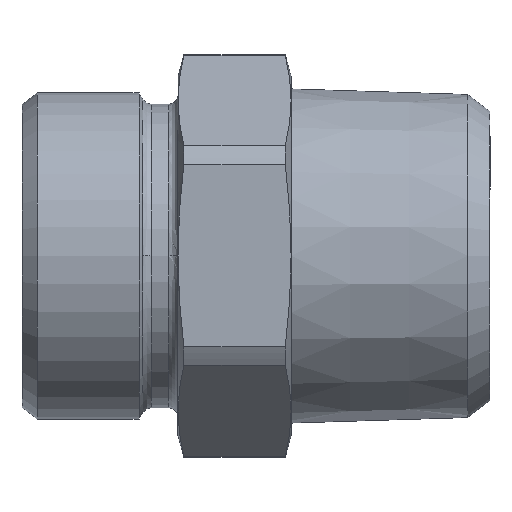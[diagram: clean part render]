
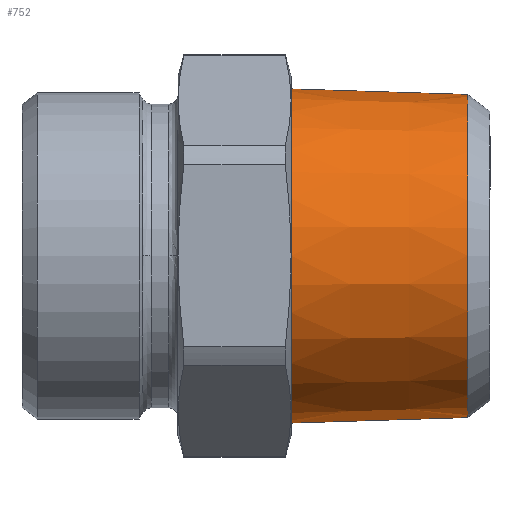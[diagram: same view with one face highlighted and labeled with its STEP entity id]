
A CAD part, top view. The second image highlights one B-rep face of the part: STEP entity #752.
In plain terms, the highlighted conical face has half-angle 1.79 degrees and reference radius 21.063 mm.
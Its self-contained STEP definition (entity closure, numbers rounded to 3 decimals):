
#711=CARTESIAN_POINT('',(0.,0.,-18.567));
#712=DIRECTION('',(0.,0.,1.0));
#713=DIRECTION('',(0.0,-1.0,0.0));
#714=AXIS2_PLACEMENT_3D('',#711,#712,#713);
#715=CONICAL_SURFACE('',#714,21.063,1.79);
#716=CARTESIAN_POINT('',(0.,-20.71,-29.884));
#717=VERTEX_POINT('',#716);
#718=CARTESIAN_POINT('',(0.,-21.417,-7.25));
#719=VERTEX_POINT('',#718);
#720=CARTESIAN_POINT('',(0.,-20.71,-29.884));
#721=DIRECTION('',(0.,-0.031,1.));
#722=VECTOR('',#721,22.645);
#723=LINE('',#720,#722);
#724=EDGE_CURVE('',#717,#719,#723,.T.);
#725=ORIENTED_EDGE('',*,*,#724,.F.);
#726=CARTESIAN_POINT('',(0.,20.71,-29.884));
#727=VERTEX_POINT('',#726);
#728=CARTESIAN_POINT('',(0.,0.,-29.884));
#729=DIRECTION('',(0.0,0.0,1.0));
#730=DIRECTION('',(0.0,-1.0,0.0));
#731=AXIS2_PLACEMENT_3D('',#728,#729,#730);
#732=CIRCLE('',#731,20.71);
#733=EDGE_CURVE('',#717,#727,#732,.T.);
#734=ORIENTED_EDGE('',*,*,#733,.T.);
#735=CARTESIAN_POINT('',(0.,21.417,-7.25));
#736=VERTEX_POINT('',#735);
#737=CARTESIAN_POINT('',(0.,21.417,-7.25));
#738=DIRECTION('',(0.,-0.031,-1.));
#739=VECTOR('',#738,22.645);
#740=LINE('',#737,#739);
#741=EDGE_CURVE('',#736,#727,#740,.T.);
#742=ORIENTED_EDGE('',*,*,#741,.F.);
#743=CARTESIAN_POINT('',(0.,0.,-7.25));
#744=DIRECTION('',(0.0,0.0,1.0));
#745=DIRECTION('',(0.0,-1.0,0.0));
#746=AXIS2_PLACEMENT_3D('',#743,#744,#745);
#747=CIRCLE('',#746,21.417);
#748=EDGE_CURVE('',#719,#736,#747,.T.);
#749=ORIENTED_EDGE('',*,*,#748,.F.);
#750=EDGE_LOOP('',(#725,#734,#742,#749));
#751=FACE_OUTER_BOUND('',#750,.T.);
#752=ADVANCED_FACE('',(#751),#715,.T.);
